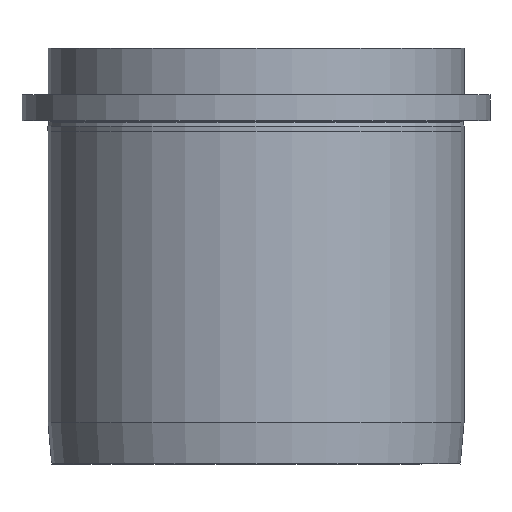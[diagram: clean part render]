
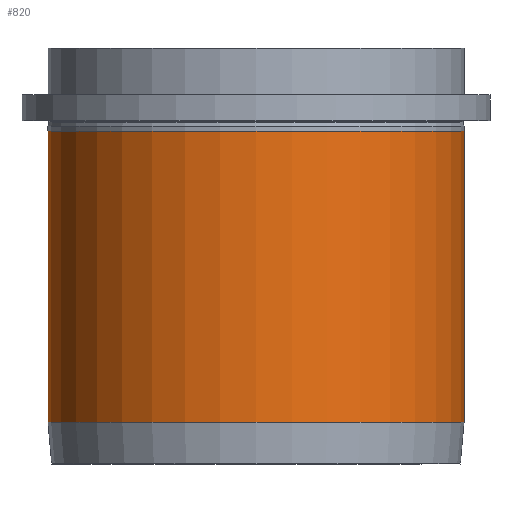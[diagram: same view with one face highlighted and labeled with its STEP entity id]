
A CAD part, left-side view. The second image highlights one B-rep face of the part: STEP entity #820.
In plain terms, the highlighted cylindrical face has radius 80 mm (diameter 160 mm), a partial arc.
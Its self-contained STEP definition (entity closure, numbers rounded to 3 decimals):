
#606=CARTESIAN_POINT('Vertex',(0.,80.,128.)) ;
#613=CARTESIAN_POINT('Vertex',(0.,-80.,128.)) ;
#628=CARTESIAN_POINT('Axis2P3D Location',(0.,0.,128.)) ;
#761=CARTESIAN_POINT('Axis2P3D Location',(0.,0.,16.)) ;
#765=CARTESIAN_POINT('Vertex',(0.,80.,16.)) ;
#767=CARTESIAN_POINT('Vertex',(0.,-80.,16.)) ;
#799=CARTESIAN_POINT('Axis2P3D Location',(0.,0.,72.)) ;
#804=CARTESIAN_POINT('Line Origine',(0.,80.,72.)) ;
#809=CARTESIAN_POINT('Line Origine',(0.,-80.,72.)) ;
#629=DIRECTION('Axis2P3D Direction',(0.,0.,1.)) ;
#762=DIRECTION('Axis2P3D Direction',(0.,0.,1.)) ;
#800=DIRECTION('Axis2P3D Direction',(0.,0.,1.)) ;
#801=DIRECTION('Axis2P3D XDirection',(0.,1.,0.)) ;
#805=DIRECTION('Vector Direction',(0.,0.,1.)) ;
#810=DIRECTION('Vector Direction',(0.,0.,1.)) ;
#630=AXIS2_PLACEMENT_3D('Circle Axis2P3D',#628,#629,$) ;
#763=AXIS2_PLACEMENT_3D('Circle Axis2P3D',#761,#762,$) ;
#802=AXIS2_PLACEMENT_3D('Cylinder Axis2P3D',#799,#800,#801) ;
#815=ORIENTED_EDGE('',*,*,#808,.F.) ;
#816=ORIENTED_EDGE('',*,*,#769,.T.) ;
#817=ORIENTED_EDGE('',*,*,#813,.T.) ;
#818=ORIENTED_EDGE('',*,*,#632,.F.) ;
#806=VECTOR('Line Direction',#805,1.) ;
#811=VECTOR('Line Direction',#810,1.) ;
#820=ADVANCED_FACE('PartBody',(#819),#803,.T.) ;
#631=CIRCLE('generated circle',#630,80.) ;
#764=CIRCLE('generated circle',#763,80.) ;
#803=CYLINDRICAL_SURFACE('generated cylinder',#802,80.) ;
#632=EDGE_CURVE('',#607,#614,#631,.T.) ;
#769=EDGE_CURVE('',#766,#768,#764,.T.) ;
#808=EDGE_CURVE('',#766,#607,#807,.T.) ;
#813=EDGE_CURVE('',#768,#614,#812,.T.) ;
#814=EDGE_LOOP('',(#815,#816,#817,#818)) ;
#819=FACE_OUTER_BOUND('',#814,.T.) ;
#807=LINE('Line',#804,#806) ;
#812=LINE('Line',#809,#811) ;
#607=VERTEX_POINT('',#606) ;
#614=VERTEX_POINT('',#613) ;
#766=VERTEX_POINT('',#765) ;
#768=VERTEX_POINT('',#767) ;
